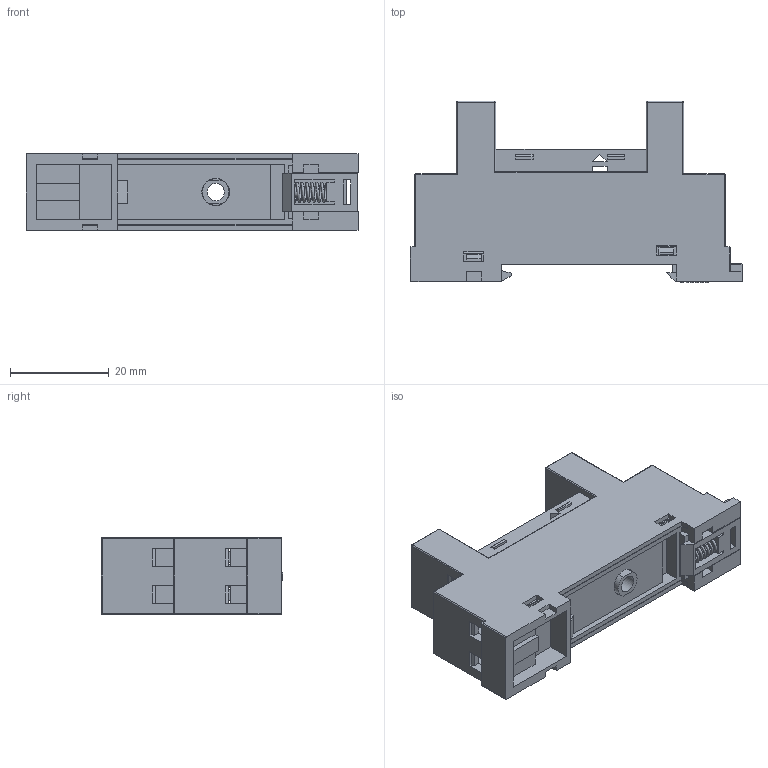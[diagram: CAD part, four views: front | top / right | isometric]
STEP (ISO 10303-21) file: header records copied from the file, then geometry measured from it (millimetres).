
FILE_DESCRIPTION(/* description */ (''),/* implementation_level */ '2;1');
FILE_NAME(/* name */ 'C:\Desktop\95.65_Shrinkwrap_2.stp',/* time_stamp */ '2020-10-22T11:17:29+02:00',/* author */ ('marco'),/* organization */ (''),/* preprocessor_version */ 'ST-DEVELOPER v17',/* originating_system */ 'Autodesk Inventor 2019',/* authorisation */ '');
FILE_SCHEMA (('AUTOMOTIVE_DESIGN { 1 0 10303 214 3 1 1 }'));
Length unit declared in the file: millimetre
Products named in the file (1): 95.65_Shrinkwrap_2
Bounding box: 67.2 x 36.8 x 15.5 mm (x, y, z)
Volume: 13121.7 mm3; surface area: 19723.5 mm2
Topology: 9 solids, 9 shells, 990 faces, 2842 edges, 1827 vertices
Faces by surface type: plane 890, cylinder 75, cone 12, sphere 12, bspline 1
Full cylindrical faces by diameter (mm): 2 x1, 2.6 x8, 2.88 x8, 3.5 x1, 4.7 x8, 4.8 x8, 5.6 x1
Entity records: 34557 total; most frequent: CARTESIAN_POINT 7338, ORIENTED_EDGE 5662, DIRECTION 5061, EDGE_CURVE 2831, LINE 2541, VECTOR 2541, VERTEX_POINT 1827, AXIS2_PLACEMENT_3D 1260
